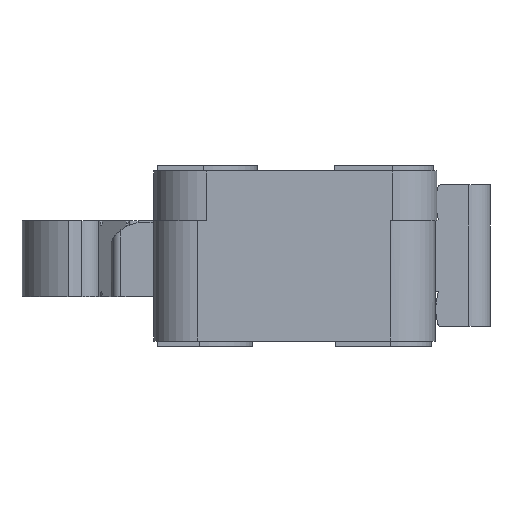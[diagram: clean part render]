
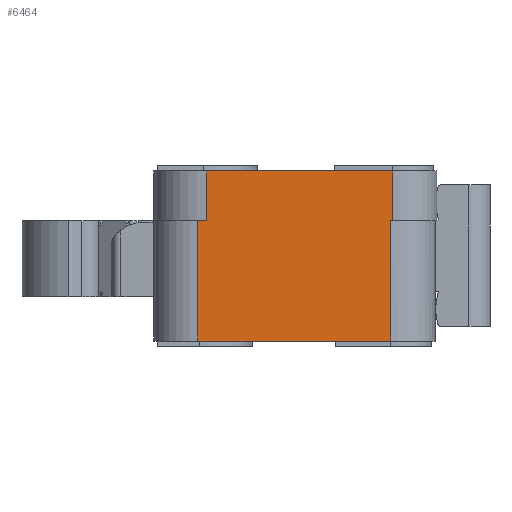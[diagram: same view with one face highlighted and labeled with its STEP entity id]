
A CAD part, left-side view. The second image highlights one B-rep face of the part: STEP entity #6464.
In plain terms, the highlighted planar face has unit normal (-1, 0, 0).
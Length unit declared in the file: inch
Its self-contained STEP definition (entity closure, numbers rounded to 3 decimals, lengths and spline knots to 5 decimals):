
#1063=DIRECTION('',(0.,0.,1.));
#1064=VECTOR('',#1063,2.8);
#1065=CARTESIAN_POINT('',(0.00075,2.40003,0.));
#1066=LINE('',#1065,#1064);
#1067=DIRECTION('',(0.,0.,1.));
#1068=VECTOR('',#1067,2.8);
#1069=CARTESIAN_POINT('',(0.,12.9,0.));
#1070=LINE('',#1069,#1068);
#1071=DIRECTION('',(0.,-1.,0.));
#1072=VECTOR('',#1071,10.5);
#1073=CARTESIAN_POINT('',(0.,12.9,2.8));
#1074=LINE('',#1073,#1072);
#1075=DIRECTION('',(0.,0.,-1.));
#1076=VECTOR('',#1075,6.8);
#1077=CARTESIAN_POINT('',(0.,2.5,0.));
#1078=LINE('',#1077,#1076);
#1079=DIRECTION('',(0.,1.,0.));
#1080=VECTOR('',#1079,10.9);
#1081=CARTESIAN_POINT('',(0.,2.5,-6.8));
#1082=LINE('',#1081,#1080);
#1088=DIRECTION('',(0.,1.,0.));
#1089=VECTOR('',#1088,0.5);
#1090=CARTESIAN_POINT('',(0.,12.9,0.));
#1091=LINE('',#1090,#1089);
#2823=DIRECTION('',(0.,0.,-1.));
#2824=VECTOR('',#2823,6.8);
#2825=CARTESIAN_POINT('',(0.,13.4,0.));
#2826=LINE('',#2825,#2824);
#2836=CARTESIAN_POINT('',(0.00025,2.44993,
0.));
#2837=CARTESIAN_POINT('',(0.00025,2.45826,
0.));
#2838=CARTESIAN_POINT('',(-0.00013,2.47493,
0.));
#2839=CARTESIAN_POINT('',(0.,2.49164,0.));
#2840=CARTESIAN_POINT('',(0.,2.5,0.));
#2842=CARTESIAN_POINT('',(0.00075,2.40003,0.));
#2843=CARTESIAN_POINT('',(0.00075,2.40837,0.));
#2844=CARTESIAN_POINT('',(-0.0005,2.42499,
0.));
#2845=CARTESIAN_POINT('',(0.00025,2.44163,
0.));
#2846=CARTESIAN_POINT('',(0.00025,2.44993,
0.));
#3774=CARTESIAN_POINT('',(0.,13.4,-6.8));
#3775=VERTEX_POINT('',#3774);
#3776=CARTESIAN_POINT('',(0.,2.5,-6.8));
#3777=VERTEX_POINT('',#3776);
#3812=CARTESIAN_POINT('',(0.,13.4,0.));
#3813=VERTEX_POINT('',#3812);
#4334=CARTESIAN_POINT('',(0.,12.9,2.8));
#4336=VERTEX_POINT('',#4334);
#4348=CARTESIAN_POINT('',(0.,2.4,2.8));
#4349=VERTEX_POINT('',#4348);
#4616=CARTESIAN_POINT('',(0.002,2.40008,
0.));
#4617=VERTEX_POINT('',#4616);
#4618=VERTEX_POINT('',#2846);
#4619=VERTEX_POINT('',#2840);
#4645=CARTESIAN_POINT('',(0.,12.9,0.));
#4647=VERTEX_POINT('',#4645);
#6441=CARTESIAN_POINT('',(0.,7.95,-3.4));
#6442=DIRECTION('',(1.,0.,0.));
#6443=DIRECTION('',(0.,-1.,0.));
#6444=AXIS2_PLACEMENT_3D('',#6441,#6442,#6443);
#6445=PLANE('',#6444);
#6447=ORIENTED_EDGE('',*,*,#6446,.F.);
#6449=ORIENTED_EDGE('',*,*,#6448,.T.);
#6451=ORIENTED_EDGE('',*,*,#6450,.T.);
#6452=ORIENTED_EDGE('',*,*,#6432,.F.);
#6454=ORIENTED_EDGE('',*,*,#6453,.T.);
#6456=ORIENTED_EDGE('',*,*,#6455,.T.);
#6458=ORIENTED_EDGE('',*,*,#6457,.T.);
#6459=ORIENTED_EDGE('',*,*,#5670,.T.);
#6461=ORIENTED_EDGE('',*,*,#6460,.F.);
#6462=EDGE_LOOP('',(#6447,#6449,#6451,#6452,#6454,#6456,#6458,#6459,#6461));
#6463=FACE_OUTER_BOUND('',#6462,.F.);
#6464=ADVANCED_FACE('',(#6463),#6445,.F.);
#2841=B_SPLINE_CURVE_WITH_KNOTS('',3,(#2836,#2837,#2838,#2839,#2840),
.UNSPECIFIED.,.F.,.F.,(4,1,4),(0.,0.5,1.),.UNSPECIFIED.);
#2847=B_SPLINE_CURVE_WITH_KNOTS('',3,(#2842,#2843,#2844,#2845,#2846),
.UNSPECIFIED.,.F.,.F.,(4,1,4),(0.,0.5,1.),.UNSPECIFIED.);
#5670=EDGE_CURVE('',#3777,#3775,#1082,.T.);
#6432=EDGE_CURVE('',#4617,#4349,#1066,.T.);
#6446=EDGE_CURVE('',#4647,#3813,#1091,.T.);
#6448=EDGE_CURVE('',#4647,#4336,#1070,.T.);
#6450=EDGE_CURVE('',#4336,#4349,#1074,.T.);
#6453=EDGE_CURVE('',#4617,#4618,#2847,.T.);
#6455=EDGE_CURVE('',#4618,#4619,#2841,.T.);
#6457=EDGE_CURVE('',#4619,#3777,#1078,.T.);
#6460=EDGE_CURVE('',#3813,#3775,#2826,.T.);
